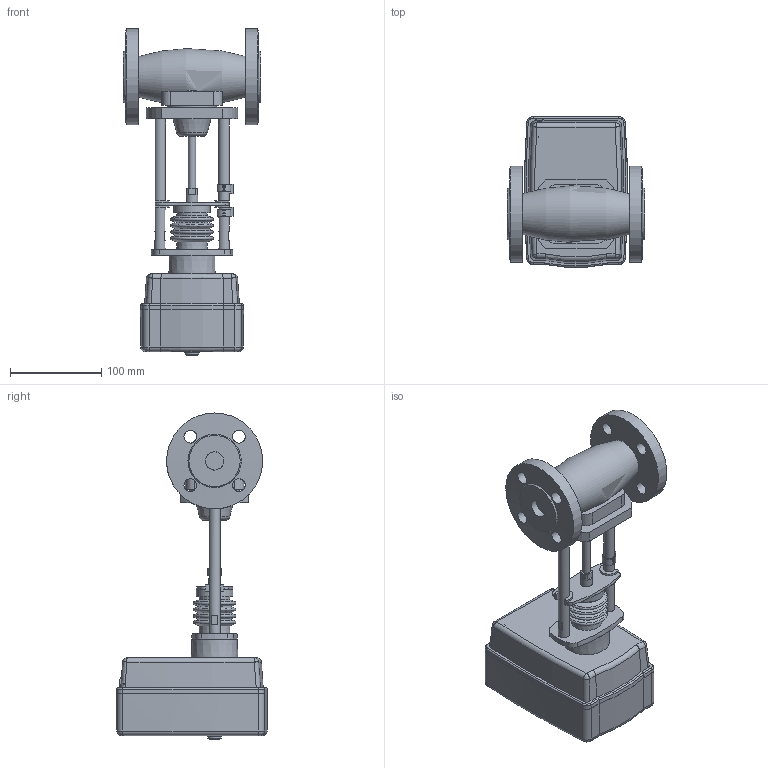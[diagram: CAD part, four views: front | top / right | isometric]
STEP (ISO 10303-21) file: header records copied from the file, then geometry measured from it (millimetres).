
FILE_DESCRIPTION(/* description */ ('Unknown'),/* implementation_level */ '2;1');
FILE_NAME(/* name */ 'Клапан TRV-020-101',/* time_stamp */ '2021-12-06T16:11:59+03:00',/* author */ ('Unknown'),/* organization */ ('Unknown'),/* preprocessor_version */ 'ST-DEVELOPER v16.7',/* originating_system */ 'DEX',/* authorisation */ $);
FILE_SCHEMA (('AUTOMOTIVE_DESIGN {1 0 10303 214 3 1 1}'));
Length unit declared in the file: millimetre
Products named in the file (1): 抔黽鳧 TRV-020-101
Bounding box: 150 x 164.51 x 356.9 mm (x, y, z)
Volume: 2275255.7 mm3; surface area: 195208.9 mm2
Topology: 1 solids, 1 shells, 309 faces, 801 edges, 511 vertices
Faces by surface type: plane 151, cylinder 76, torus 33, cone 30, bspline 15, sphere 4
Full cylindrical faces by diameter (mm): 8 x1, 12.002 x4, 13 x1, 14 x8, 15 x1, 33.4 x1, 40 x1, 54.226 x1, 105 x2
Entity records: 13010 total; most frequent: CARTESIAN_POINT 3694, DIRECTION 1483, ORIENTED_EDGE 1422, EDGE_CURVE 711, AXIS2_PLACEMENT_3D 577, VERTEX_POINT 476, EDGE_LOOP 403, FACE_BOUND 403
